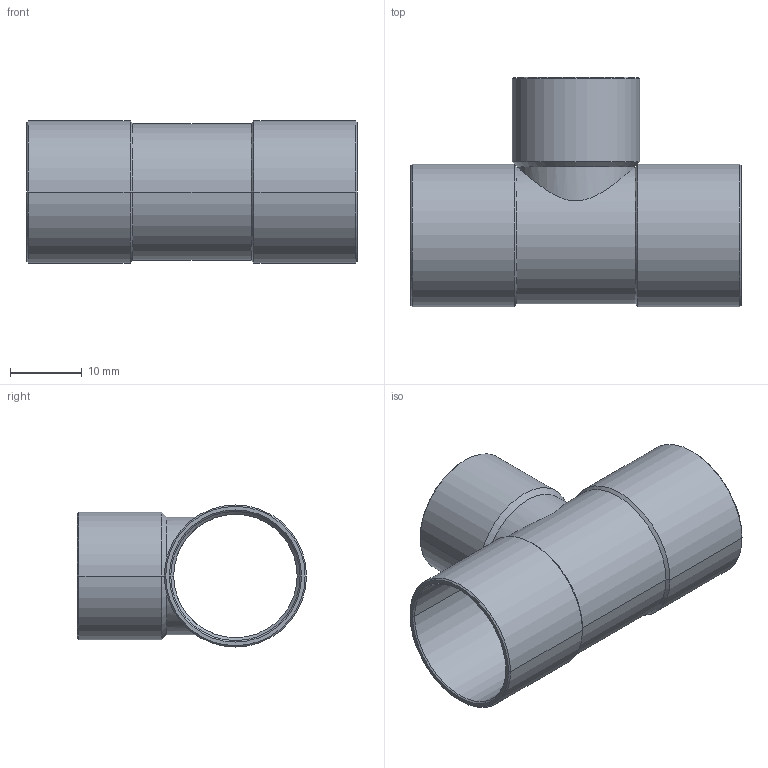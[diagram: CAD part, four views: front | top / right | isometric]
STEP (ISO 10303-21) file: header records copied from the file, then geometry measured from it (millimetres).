
FILE_DESCRIPTION((''),'2;1');
FILE_NAME('P:\Bouwmaten\z-maattekeningen 3D\5000\5130\5130181618.stp','2005-10-26T11:53:26',('Kris'),(''),'Autodesk Inventor 8','Autodesk Inventor 8','');
FILE_SCHEMA(('AUTOMOTIVE_DESIGN { 1 0 10303 214 1 1 1 1 }'));
Length unit declared in the file: millimetre
Products named in the file (1): 5130181618
Bounding box: 46 x 31.9 x 19.8 mm (x, y, z)
Volume: 2931.6 mm3; surface area: 6691.3 mm2
Topology: 1 solids, 1 shells, 47 faces, 100 edges, 54 vertices
Faces by surface type: cone 20, cylinder 16, bspline 8, plane 3
Entity records: 1447 total; most frequent: CARTESIAN_POINT 424, DIRECTION 222, ORIENTED_EDGE 200, EDGE_CURVE 100, AXIS2_PLACEMENT_3D 88, VERTEX_POINT 54, EDGE_LOOP 50, CIRCLE 48
